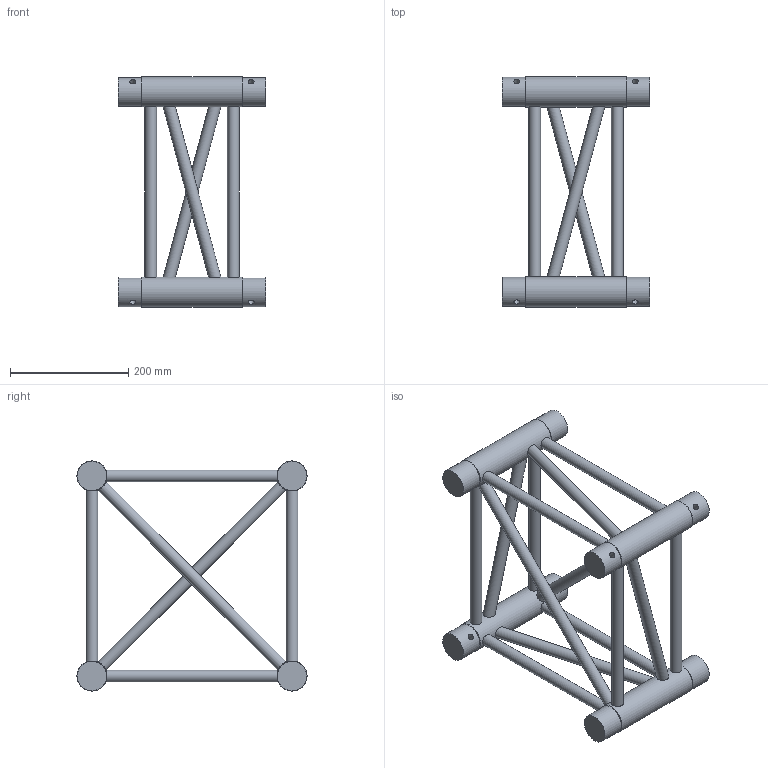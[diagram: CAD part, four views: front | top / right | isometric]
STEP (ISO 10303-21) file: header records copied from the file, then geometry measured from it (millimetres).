
FILE_DESCRIPTION(/* description */ (''),/* implementation_level */ '2;1');
FILE_NAME(/* name */ 'M:\Symbolen\STP\40-er truss\111080188.stp',/* time_stamp */ '2015-02-26T14:31:05+01:00',/* author */ ('Stephan'),/* organization */ (''),/* preprocessor_version */ 'ST-DEVELOPER v15.6',/* originating_system */ 'Autodesk Inventor 2015',/* authorisation */ '');
FILE_SCHEMA (('AUTOMOTIVE_DESIGN { 1 0 10303 214 3 1 1 }'));
Length unit declared in the file: millimetre
Products named in the file (1): 160023949
Bounding box: 250 x 389.98 x 389.98 mm (x, y, z)
Volume: 3341499.9 mm3; surface area: 471306.6 mm2
Topology: 18 solids, 18 shells, 110 faces, 198 edges, 124 vertices
Faces by surface type: plane 68, cylinder 34, cone 8
Full cylindrical faces by diameter (mm): 10 x8, 20 x14, 49.5 x8, 51 x4
Entity records: 3209 total; most frequent: CARTESIAN_POINT 927, DIRECTION 414, ORIENTED_EDGE 328, EDGE_LOOP 200, AXIS2_PLACEMENT_3D 195, EDGE_CURVE 140, VERTEX_POINT 116, STYLED_ITEM 113
